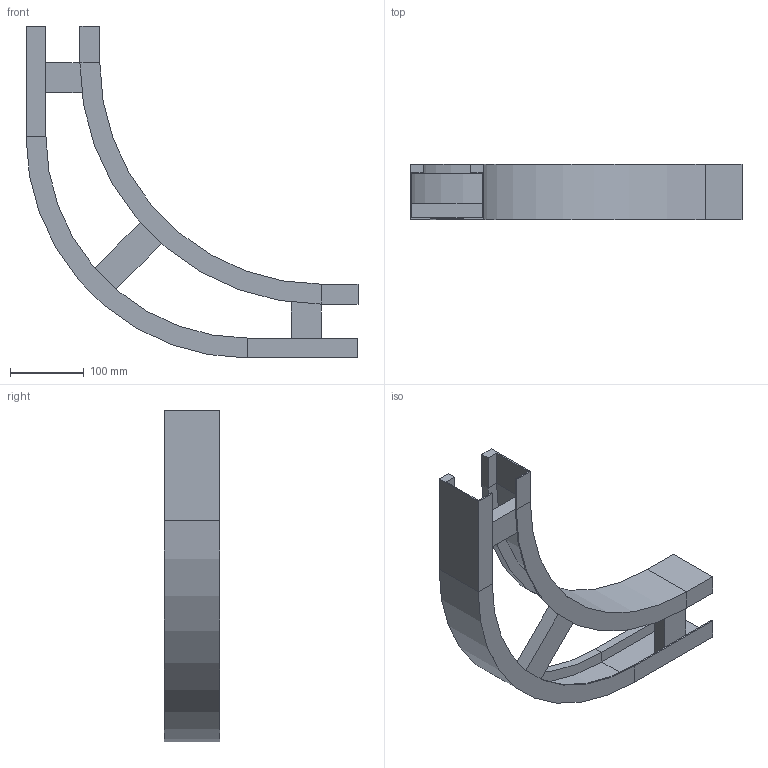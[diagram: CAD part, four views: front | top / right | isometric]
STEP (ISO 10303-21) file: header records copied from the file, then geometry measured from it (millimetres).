
FILE_DESCRIPTION (( 'STEP AP214' ), '1' );
FILE_NAME ('B2_10B3C100.step', '2025-02-21T15:26:46', ( '' ), ( '' ), 'SwSTEP 2.0', 'SolidWorks 2023', '' );
FILE_SCHEMA (( 'AUTOMOTIVE_DESIGN' ));
Length unit declared in the file: millimetre
Products named in the file (5): TRAVERSINO_100; B2_LONGH.INTERNO 90°_H75_R300; B2_LONGH.ESTERNO 90°_H75_R300+100; TRAVERSINO_L136; B2_10B3C100
Assembly tree (5 placements, depth 2):
  B2_10B3C100
    B2_LONGH.INTERNO 90°_H75_R300
    B2_LONGH.ESTERNO 90°_H75_R300+100
    TRAVERSINO_100  x2
    TRAVERSINO_L136
Bounding box: 450 x 75 x 450 mm (x, y, z)
Volume: 791931.3 mm3; surface area: 362940.8 mm2
Topology: 5 solids, 5 shells, 70 faces, 148 edges, 88 vertices
Faces by surface type: plane 62, cylinder 8
Entity records: 1822 total; most frequent: DIRECTION 296, CARTESIAN_POINT 288, ORIENTED_EDGE 272, EDGE_CURVE 136, LINE 120, VECTOR 120, AXIS2_PLACEMENT_3D 88, VERTEX_POINT 80
